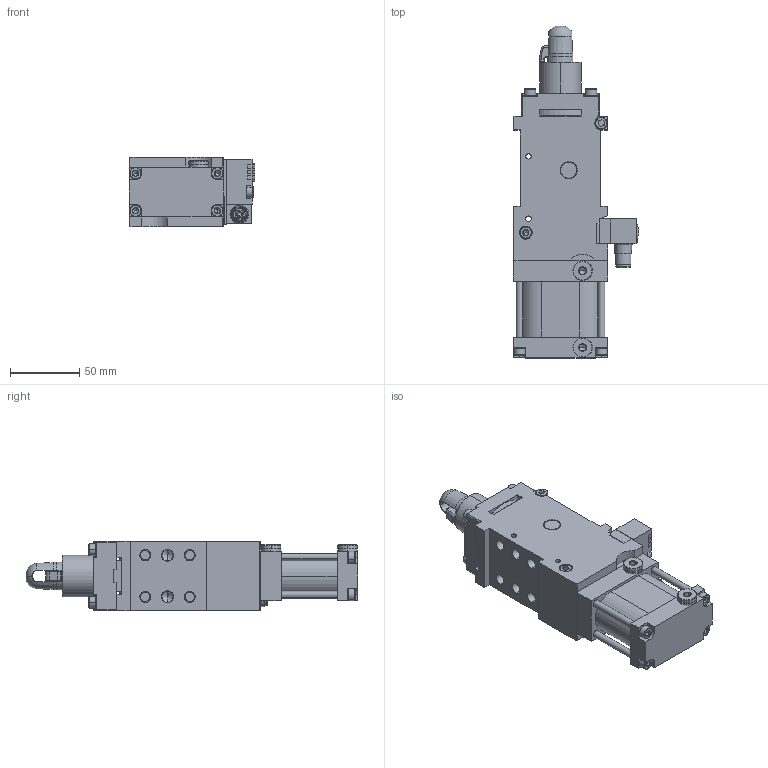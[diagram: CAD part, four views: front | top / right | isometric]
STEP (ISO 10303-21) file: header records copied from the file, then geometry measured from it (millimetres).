
FILE_DESCRIPTION (( 'STEP AP203' ), '1' );
FILE_NAME ('dca40gi-G200522nt3.STEP', '2020-05-26T12:24:44', ( '' ), ( '' ), 'SwSTEP 2.0', 'SolidWorks 2019', '' );
FILE_SCHEMA (( 'CONFIG_CONTROL_DESIGN' ));
Products named in the file (1): dca40gi-G200522nt3
Bounding box: 90.46 x 239.3 x 50.02 mm (x, y, z)
Volume: 480641.7 mm3; surface area: 121879.6 mm2
Topology: 27 solids, 38 shells, 2083 faces, 6159 edges, 3873 vertices
Faces by surface type: plane 1012, cylinder 505, cone 388, torus 156, bspline 22
Entity records: 73089 total; most frequent: CARTESIAN_POINT 17694, ORIENTED_EDGE 12198, DIRECTION 11314, EDGE_CURVE 6099, AXIS2_PLACEMENT_3D 4311, VERTEX_POINT 3873, VECTOR 2692, LINE 2692
